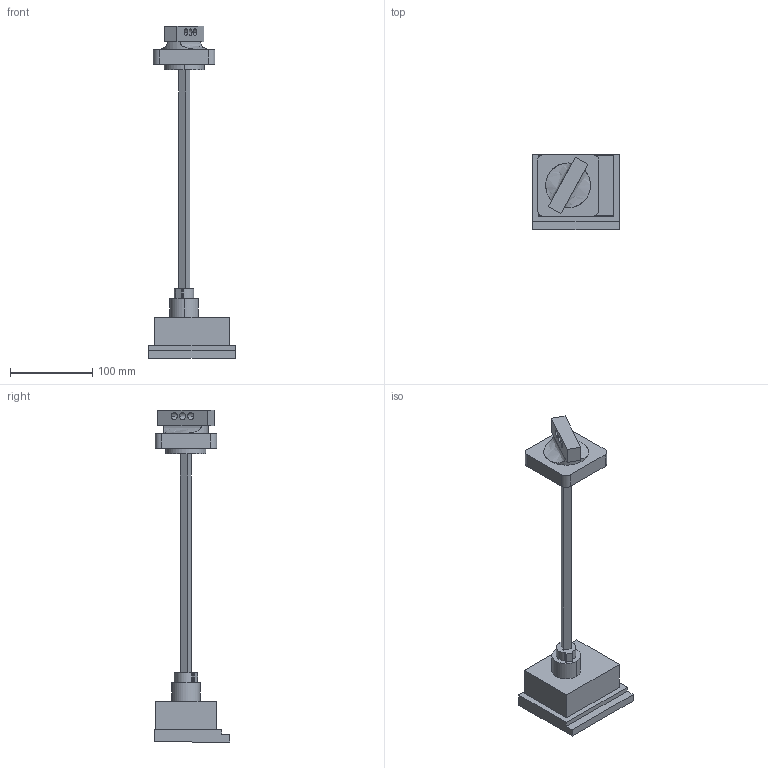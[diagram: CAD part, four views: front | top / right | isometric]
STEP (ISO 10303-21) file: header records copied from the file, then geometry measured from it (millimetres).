
FILE_DESCRIPTION (( 'STEP AP214' ), '1' );
FILE_NAME ('Ïðèâîä ðó÷íîé äèñòàíöèîííûé OptiMat D100, D160, D250.STEP', '2023-04-26T11:36:33', ( '' ), ( '' ), 'SwSTEP 2.0', 'SolidWorks 2018', '' );
FILE_SCHEMA (( 'AUTOMOTIVE_DESIGN' ));
Length unit declared in the file: millimetre
Products named in the file (1): Ïðèâîä ðó÷íîé äèñòàíöèîííûé OptiMat D100, D160, D250
Bounding box: 105 x 92 x 404.4 mm (x, y, z)
Volume: 568144.4 mm3; surface area: 73559.8 mm2
Topology: 1 solids, 1 shells, 65 faces, 162 edges, 106 vertices
Faces by surface type: plane 38, cylinder 25, bspline 2
Entity records: 2846 total; most frequent: CARTESIAN_POINT 498, DIRECTION 334, ORIENTED_EDGE 324, EDGE_CURVE 162, AXIS2_PLACEMENT_3D 113, VECTOR 108, LINE 108, VERTEX_POINT 106
